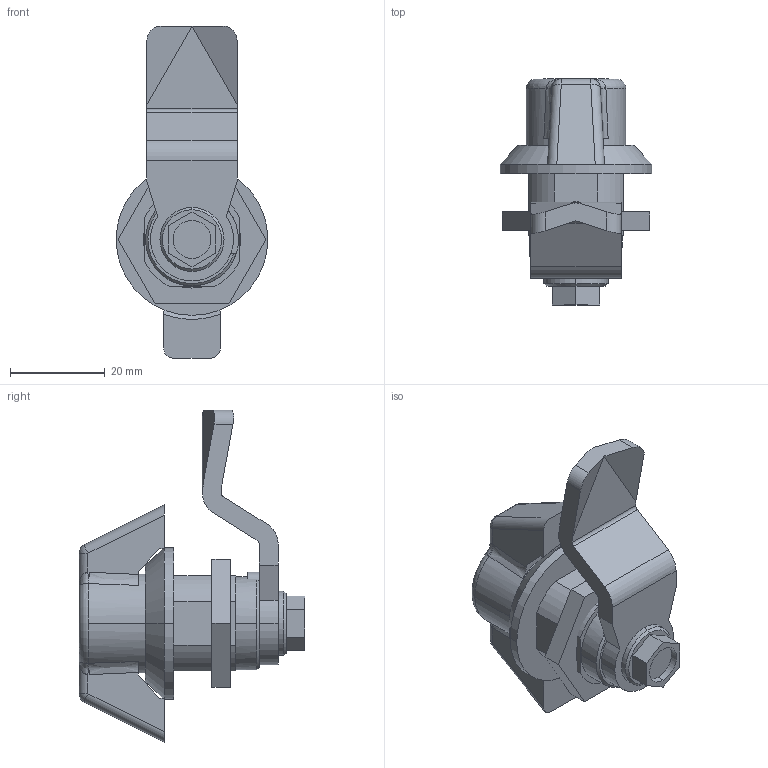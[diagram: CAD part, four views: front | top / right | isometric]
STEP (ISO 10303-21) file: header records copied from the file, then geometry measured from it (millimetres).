
FILE_DESCRIPTION (( 'STEP AP214' ), '1' );
FILE_NAME ('115-SKN-6-A4.step', '2023-07-12T12:41:58', ( '' ), ( '' ), 'SwSTEP 2.0', 'SolidWorks 2022', '' );
FILE_SCHEMA (( 'AUTOMOTIVE_DESIGN' ));
Length unit declared in the file: millimetre
Products named in the file (5): 115-SKN-6-A4; WB115_Zunge^WB115_BE_6; WB115_Gehäuse^WB115_BE_32; WB115_Gegenmutter^WB115_BE; WB115_Betätigungswelle_Hebel^WB115_BE_SKN
Assembly tree (4 placements, depth 2):
  115-SKN-6-A4
    WB115_Gehäuse^WB115_BE_32
    WB115_Betätigungswelle_Hebel^WB115_BE_SKN
    WB115_Zunge^WB115_BE_6
    WB115_Gegenmutter^WB115_BE
Bounding box: 32 x 47.65 x 70 mm (x, y, z)
Volume: 23982.4 mm3; surface area: 12678.9 mm2
Topology: 4 solids, 4 shells, 159 faces, 393 edges, 248 vertices
Faces by surface type: plane 76, cylinder 57, bspline 12, cone 7, sphere 5, torus 2
Entity records: 5786 total; most frequent: CARTESIAN_POINT 1365, DIRECTION 777, ORIENTED_EDGE 776, EDGE_CURVE 388, AXIS2_PLACEMENT_3D 286, VERTEX_POINT 248, VECTOR 205, LINE 205
